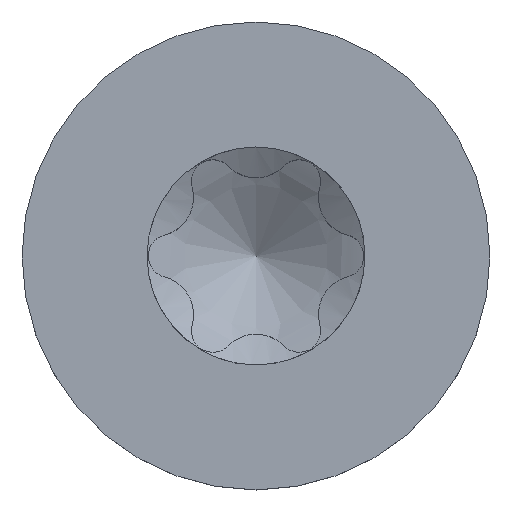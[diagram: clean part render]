
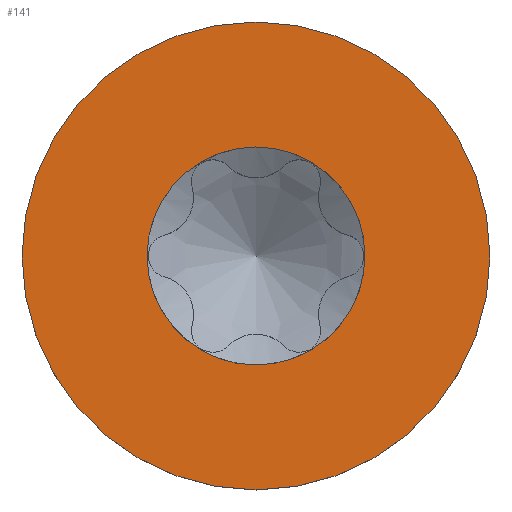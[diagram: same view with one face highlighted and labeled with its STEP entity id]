
A CAD part, top view. The second image highlights one B-rep face of the part: STEP entity #141.
In plain terms, the highlighted planar face has unit normal (0, 0, 1).
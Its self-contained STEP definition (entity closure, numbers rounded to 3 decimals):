
#96=PLANE('',#657);
#123=FACE_BOUND('',#219,.T.);
#124=FACE_BOUND('',#220,.T.);
#141=ADVANCED_FACE('',(#123,#124),#96,.T.);
#219=EDGE_LOOP('',(#300));
#220=EDGE_LOOP('',(#301));
#262=CIRCLE('',#654,1.9);
#263=CIRCLE('',#656,0.885);
#300=ORIENTED_EDGE('',*,*,#527,.T.);
#301=ORIENTED_EDGE('',*,*,#526,.F.);
#463=VERTEX_POINT('',#1289);
#464=VERTEX_POINT('',#1292);
#526=EDGE_CURVE('',#463,#463,#262,.T.);
#527=EDGE_CURVE('',#464,#464,#263,.T.);
#654=AXIS2_PLACEMENT_3D('',#1288,#707,#708);
#656=AXIS2_PLACEMENT_3D('',#1291,#711,#712);
#657=AXIS2_PLACEMENT_3D('',#1293,#713,#714);
#707=DIRECTION('',(0.,0.,-1.));
#708=DIRECTION('',(0.,1.,0.));
#711=DIRECTION('',(0.,0.,-1.));
#712=DIRECTION('',(0.,-1.,0.));
#713=DIRECTION('',(0.,0.,1.));
#714=DIRECTION('',(0.,-1.,0.));
#1288=CARTESIAN_POINT('',(0.,0.,1.44));
#1289=CARTESIAN_POINT('',(0.,1.9,1.44));
#1291=CARTESIAN_POINT('',(0.,0.,1.44));
#1292=CARTESIAN_POINT('',(0.,-0.885,1.44));
#1293=CARTESIAN_POINT('',(0.,1.9,1.44));
